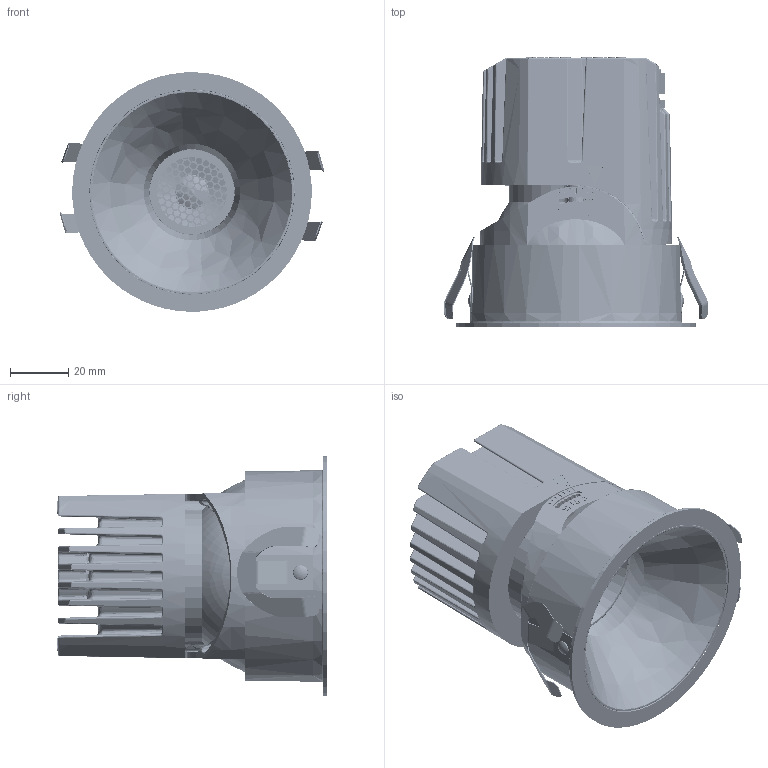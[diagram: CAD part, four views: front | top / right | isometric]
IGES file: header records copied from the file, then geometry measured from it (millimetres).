
Start section: SolidWorks IGES file using analytic representation for surfaces
Global section: file name: \\ARNOLD\compartida\Nueva Coleccion Septiembre 2026\ARQUITECTURAL\SEITY_informacion\SEITY_imagenes y 3d\Required documents_0706\3D STEP file - downlights\SEYT T0332\168001-75.STEP.IGS; native system: SolidWorks 2023; preprocessor: SolidWorks 2023; author: adrian; date: 260828.103947; units: millimetre
Bounding box: 90.63 x 92.3 x 81.96 mm (x, y, z)
Surface area: 120984.4 mm2 (no closed solid volume)
Topology: 0 solids, 0 shells, 6103 faces, 52387 edges, 52223 vertices
Faces by surface type: bspline 4112, revolution 1991
